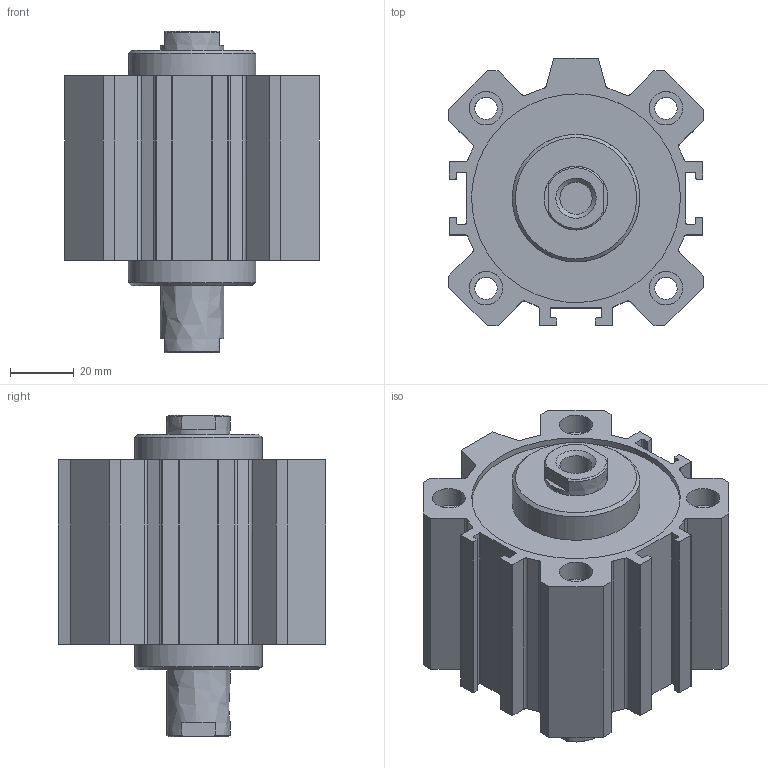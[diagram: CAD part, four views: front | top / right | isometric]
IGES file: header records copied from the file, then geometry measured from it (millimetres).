
Global section: file name: 1514_63_0015; native system: Autodesk Inventor 2014; preprocessor: unknown; author: A. Manieri; date: 20160824.140222; units: millimetre
Bounding box: 80 x 84 x 101 mm (x, y, z)
Volume: 273323.8 mm3; surface area: 73059.4 mm2
Topology: 2 solids, 2 shells, 178 faces, 482 edges, 328 vertices
Faces by surface type: bspline 178
